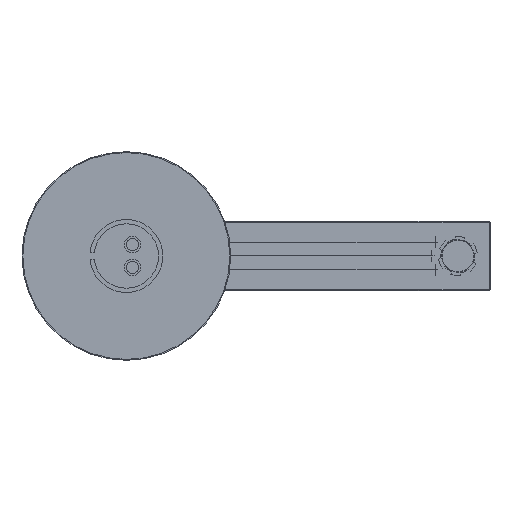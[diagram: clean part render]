
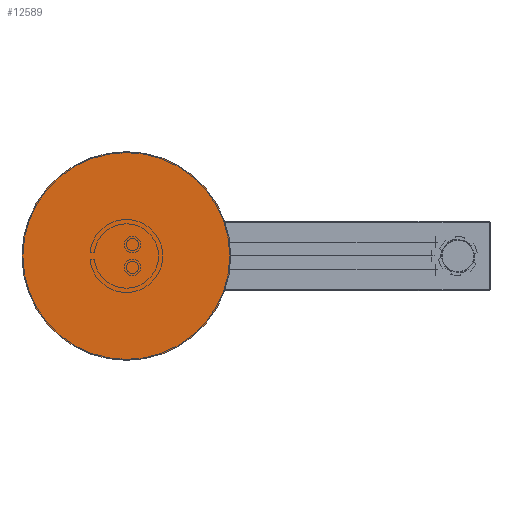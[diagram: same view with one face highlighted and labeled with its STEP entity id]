
A CAD part, front view. The second image highlights one B-rep face of the part: STEP entity #12589.
In plain terms, the highlighted planar face has unit normal (0, -1, 0).
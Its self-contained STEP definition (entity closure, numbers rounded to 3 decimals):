
#10344=CARTESIAN_POINT('',(0.,-1042.,0.));
#10345=DIRECTION('',(0.,1.,0.));
#10346=DIRECTION('',(-1.,0.,0.));
#10347=AXIS2_PLACEMENT_3D('',#10344,#10345,#10346);
#10349=CARTESIAN_POINT('',(0.,-1042.,0.));
#10350=DIRECTION('',(0.,1.,0.));
#10351=DIRECTION('',(1.,0.,0.));
#10352=AXIS2_PLACEMENT_3D('',#10349,#10350,#10351);
#12364=CARTESIAN_POINT('',(-60.,-1042.,0.));
#12365=CARTESIAN_POINT('',(60.,-1042.,0.));
#12366=VERTEX_POINT('',#12364);
#12367=VERTEX_POINT('',#12365);
#12580=CARTESIAN_POINT('',(0.,-1042.,0.));
#12581=DIRECTION('',(0.,-1.,0.));
#12582=DIRECTION('',(1.,0.,0.));
#12583=AXIS2_PLACEMENT_3D('',#12580,#12581,#12582);
#12584=PLANE('',#12583);
#12585=ORIENTED_EDGE('',*,*,#12560,.T.);
#12586=ORIENTED_EDGE('',*,*,#12574,.T.);
#12587=EDGE_LOOP('',(#12585,#12586));
#12588=FACE_OUTER_BOUND('',#12587,.F.);
#12589=ADVANCED_FACE('',(#12588),#12584,.T.);
#10348=CIRCLE('',#10347,60.);
#10353=CIRCLE('',#10352,60.);
#12560=EDGE_CURVE('',#12366,#12367,#10348,.T.);
#12574=EDGE_CURVE('',#12367,#12366,#10353,.T.);
